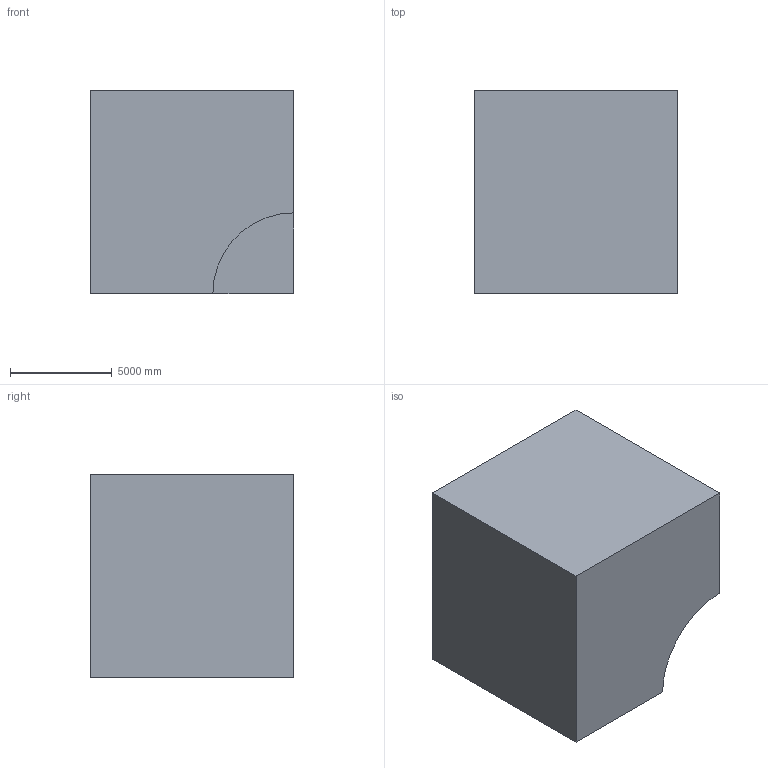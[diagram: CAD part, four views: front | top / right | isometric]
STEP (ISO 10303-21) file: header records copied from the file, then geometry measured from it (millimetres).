
FILE_DESCRIPTION (( 'STEP AP203' ), '1' );
FILE_NAME ('198.STEP', '2022-07-28T13:52:39', ( 'user' ), ( '' ), 'SwSTEP 2.0', 'SolidWorks 2021', '' );
FILE_SCHEMA (( 'CONFIG_CONTROL_DESIGN' ));
Length unit declared in the file: centimetre
Products named in the file (1): 198
Bounding box: 10000 x 10000 x 10000 mm (x, y, z)
Volume: 882078646025 mm3; surface area: 731681163.3 mm2
Topology: 1 solids, 1 shells, 14 faces, 30 edges, 20 vertices
Faces by surface type: plane 9, cylinder 5
Entity records: 461 total; most frequent: DIRECTION 70, CARTESIAN_POINT 65, ORIENTED_EDGE 60, EDGE_CURVE 30, AXIS2_PLACEMENT_3D 25, VERTEX_POINT 20, VECTOR 20, LINE 20
